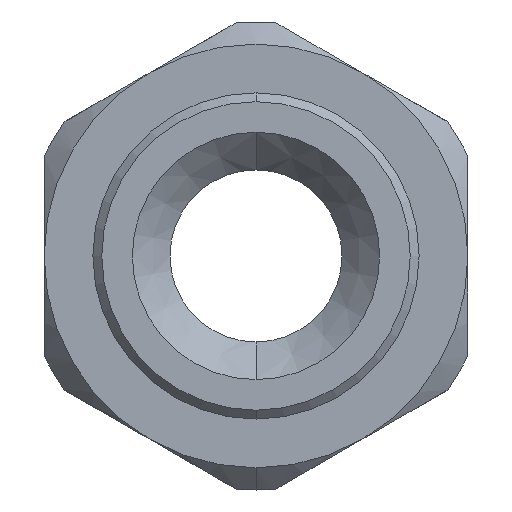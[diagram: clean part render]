
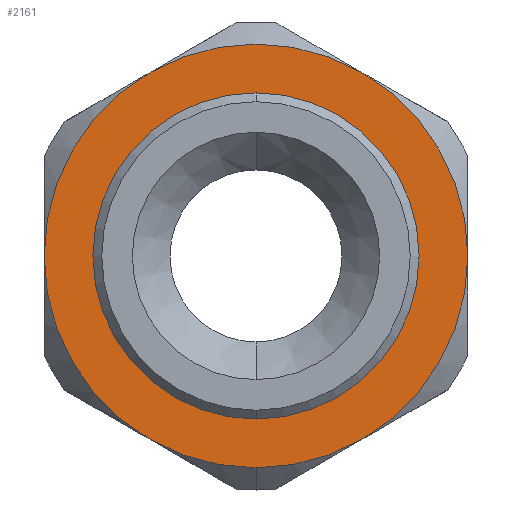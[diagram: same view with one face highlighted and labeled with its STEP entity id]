
A CAD part, front view. The second image highlights one B-rep face of the part: STEP entity #2161.
In plain terms, the highlighted planar face has unit normal (0, -1, 0).
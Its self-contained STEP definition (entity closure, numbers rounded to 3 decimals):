
#55 = VERTEX_POINT ( 'NONE', #1436 ) ;
#82 = VERTEX_POINT ( 'NONE', #1402 ) ;
#120 = VERTEX_POINT ( 'NONE', #1296 ) ;
#121 = VERTEX_POINT ( 'NONE', #1289 ) ;
#278 = VERTEX_POINT ( 'NONE', #1074 ) ;
#281 = VERTEX_POINT ( 'NONE', #1057 ) ;
#282 = VERTEX_POINT ( 'NONE', #1060 ) ;
#289 = VERTEX_POINT ( 'NONE', #1043 ) ;
#313 = VERTEX_POINT ( 'NONE', #1260 ) ;
#616 = DIRECTION ( 'NONE',  ( 0., 0., -1. ) ) ;
#617 = DIRECTION ( 'NONE',  ( 0., -1., 0. ) ) ;
#618 = CARTESIAN_POINT ( 'NONE',  ( 0., 1., 0. ) ) ;
#721 = FACE_OUTER_BOUND ( 'NONE', #2406, .T. ) ;
#722 = FACE_BOUND ( 'NONE', #2405, .T. ) ;
#723 = AXIS2_PLACEMENT_3D ( 'NONE', #1822, #1829, #1821 ) ;
#744 = AXIS2_PLACEMENT_3D ( 'NONE', #1561, #1414, #1560 ) ;
#825 = AXIS2_PLACEMENT_3D ( 'NONE', #618, #617, #616 ) ;
#842 = AXIS2_PLACEMENT_3D ( 'NONE', #1842, #1924, #1921 ) ;
#916 = AXIS2_PLACEMENT_3D ( 'NONE', #1731, #1730, #1729 ) ;
#969 = AXIS2_PLACEMENT_3D ( 'NONE', #1541, #1733, #1732 ) ;
#970 = AXIS2_PLACEMENT_3D ( 'NONE', #1530, #1529, #1528 ) ;
#978 = AXIS2_PLACEMENT_3D ( 'NONE', #1408, #1405, #1406 ) ;
#980 = AXIS2_PLACEMENT_3D ( 'NONE', #1525, #1389, #1297 ) ;
#985 = AXIS2_PLACEMENT_3D ( 'NONE', #1728, #1727, #1726 ) ;
#1043 = CARTESIAN_POINT ( 'NONE',  ( 5.975, 1., -10.349 ) ) ;
#1057 = CARTESIAN_POINT ( 'NONE',  ( 5.975, 1., 10.349 ) ) ;
#1060 = CARTESIAN_POINT ( 'NONE',  ( 11.95, 1., 0. ) ) ;
#1074 = CARTESIAN_POINT ( 'NONE',  ( 0., 1., -11.95 ) ) ;
#1260 = CARTESIAN_POINT ( 'NONE',  ( -5.975, 1., -10.349 ) ) ;
#1289 = CARTESIAN_POINT ( 'NONE',  ( 0., 1., 9.2 ) ) ;
#1296 = CARTESIAN_POINT ( 'NONE',  ( 0., 1., -9.2 ) ) ;
#1297 = DIRECTION ( 'NONE',  ( 0., 0., -1. ) ) ;
#1389 = DIRECTION ( 'NONE',  ( 0., -1., 0. ) ) ;
#1402 = CARTESIAN_POINT ( 'NONE',  ( -11.95, 1., 0. ) ) ;
#1405 = DIRECTION ( 'NONE',  ( 0., -1., 0. ) ) ;
#1406 = DIRECTION ( 'NONE',  ( 0., 0., -1. ) ) ;
#1408 = CARTESIAN_POINT ( 'NONE',  ( 0., 1., 0. ) ) ;
#1414 = DIRECTION ( 'NONE',  ( 0., 1., 0. ) ) ;
#1436 = CARTESIAN_POINT ( 'NONE',  ( -5.975, 1., 10.349 ) ) ;
#1471 = ORIENTED_EDGE ( 'NONE', *, *, #2108, .T. ) ;
#1472 = ORIENTED_EDGE ( 'NONE', *, *, #2111, .T. ) ;
#1473 = ORIENTED_EDGE ( 'NONE', *, *, #2203, .T. ) ;
#1475 = ORIENTED_EDGE ( 'NONE', *, *, #2179, .F. ) ;
#1477 = ORIENTED_EDGE ( 'NONE', *, *, #2107, .F. ) ;
#1478 = ORIENTED_EDGE ( 'NONE', *, *, #2105, .T. ) ;
#1482 = ORIENTED_EDGE ( 'NONE', *, *, #2110, .T. ) ;
#1483 = ORIENTED_EDGE ( 'NONE', *, *, #2112, .T. ) ;
#1492 = ORIENTED_EDGE ( 'NONE', *, *, #2172, .T. ) ;
#1525 = CARTESIAN_POINT ( 'NONE',  ( 0., 1., 0. ) ) ;
#1528 = DIRECTION ( 'NONE',  ( 0., 0., -1. ) ) ;
#1529 = DIRECTION ( 'NONE',  ( 0., -1., 0. ) ) ;
#1530 = CARTESIAN_POINT ( 'NONE',  ( 0., 1., 0. ) ) ;
#1541 = CARTESIAN_POINT ( 'NONE',  ( 0., 1., 0. ) ) ;
#1560 = DIRECTION ( 'NONE',  ( 0., 0., 1. ) ) ;
#1561 = CARTESIAN_POINT ( 'NONE',  ( -13.2, 1., 0. ) ) ;
#1563 = PLANE ( 'NONE',  #744 ) ;
#1726 = DIRECTION ( 'NONE',  ( 0., 0., -1. ) ) ;
#1727 = DIRECTION ( 'NONE',  ( 0., -1., 0. ) ) ;
#1728 = CARTESIAN_POINT ( 'NONE',  ( 0., 1., 0. ) ) ;
#1729 = DIRECTION ( 'NONE',  ( 0., 0., -1. ) ) ;
#1730 = DIRECTION ( 'NONE',  ( 0., -1., 0. ) ) ;
#1731 = CARTESIAN_POINT ( 'NONE',  ( 0., 1., 0. ) ) ;
#1732 = DIRECTION ( 'NONE',  ( 0., 0., -1. ) ) ;
#1733 = DIRECTION ( 'NONE',  ( 0., -1., 0. ) ) ;
#1821 = DIRECTION ( 'NONE',  ( 0., 0., -1. ) ) ;
#1822 = CARTESIAN_POINT ( 'NONE',  ( 0., 1., 0. ) ) ;
#1829 = DIRECTION ( 'NONE',  ( 0., -1., 0. ) ) ;
#1842 = CARTESIAN_POINT ( 'NONE',  ( 0., 1., 0. ) ) ;
#1921 = DIRECTION ( 'NONE',  ( 0., 0., -1. ) ) ;
#1924 = DIRECTION ( 'NONE',  ( 0., -1., 0. ) ) ;
#2042 = CIRCLE ( 'NONE', #916, 11.95 ) ;
#2050 = CIRCLE ( 'NONE', #825, 11.95 ) ;
#2055 = CIRCLE ( 'NONE', #985, 11.95 ) ;
#2056 = CIRCLE ( 'NONE', #969, 11.95 ) ;
#2059 = CIRCLE ( 'NONE', #842, 9.2 ) ;
#2080 = CIRCLE ( 'NONE', #978, 11.95 ) ;
#2081 = CIRCLE ( 'NONE', #980, 9.2 ) ;
#2087 = CIRCLE ( 'NONE', #970, 11.95 ) ;
#2105 = EDGE_CURVE ( 'NONE', #282, #281, #2087, .T. ) ;
#2107 = EDGE_CURVE ( 'NONE', #121, #120, #2081, .T. ) ;
#2108 = EDGE_CURVE ( 'NONE', #281, #55, #2080, .T. ) ;
#2110 = EDGE_CURVE ( 'NONE', #82, #313, #2056, .T. ) ;
#2111 = EDGE_CURVE ( 'NONE', #55, #82, #2042, .T. ) ;
#2112 = EDGE_CURVE ( 'NONE', #289, #282, #2055, .T. ) ;
#2161 = ADVANCED_FACE ( 'NONE', ( #722, #721 ), #1563, .F. ) ;
#2172 = EDGE_CURVE ( 'NONE', #313, #278, #2282, .T. ) ;
#2179 = EDGE_CURVE ( 'NONE', #120, #121, #2059, .T. ) ;
#2203 = EDGE_CURVE ( 'NONE', #278, #289, #2050, .T. ) ;
#2282 = CIRCLE ( 'NONE', #723, 11.95 ) ;
#2405 = EDGE_LOOP ( 'NONE', ( #1475, #1477 ) ) ;
#2406 = EDGE_LOOP ( 'NONE', ( #1478, #1471, #1472, #1482, #1492, #1473, #1483 ) ) ;
